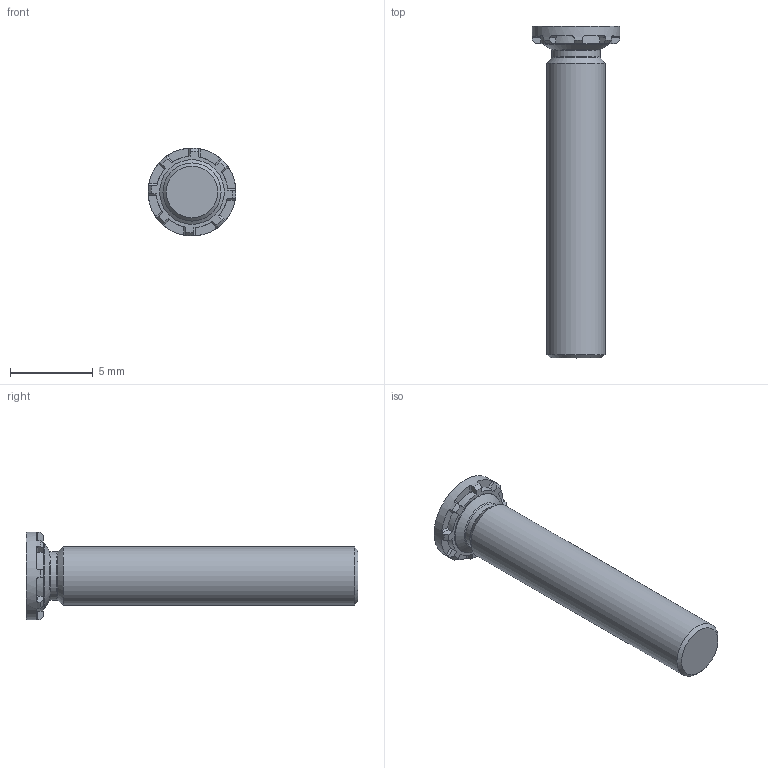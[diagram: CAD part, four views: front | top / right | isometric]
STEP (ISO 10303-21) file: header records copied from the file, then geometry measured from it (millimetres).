
FILE_DESCRIPTION(/* description */ (''),/* implementation_level */ '2;1');
FILE_NAME(/* name */ 'C:\Users\keval.kumar\Desktop\Fastit\Clinch Screw- FH Range\M3.5\Clinch Screw-FH Range_M3.5x20.stp',/* time_stamp */ '2024-03-12T11:54:26+05:00',/* author */ ('keval.kumar'),/* organization */ (''),/* preprocessor_version */ 'ST-DEVELOPER v18.1',/* originating_system */ 'Autodesk Inventor 2022',/* authorisation */ '');
FILE_SCHEMA (('AUTOMOTIVE_DESIGN { 1 0 10303 214 3 1 1 }'));
Length unit declared in the file: millimetre
Products named in the file (1): Clinch Screw-FH Range_M3.5x20
Bounding box: 5.3 x 20 x 5.3 mm (x, y, z)
Volume: 200.8 mm3; surface area: 269.8 mm2
Topology: 1 solids, 1 shells, 68 faces, 193 edges, 128 vertices
Faces by surface type: plane 43, cylinder 12, cone 11, torus 2
Full cylindrical faces by diameter (mm): 2.9 x1, 3.5 x1, 3.9 x1, 5.3 x1
Entity records: 2278 total; most frequent: CARTESIAN_POINT 422, DIRECTION 405, ORIENTED_EDGE 386, EDGE_CURVE 193, AXIS2_PLACEMENT_3D 159, VERTEX_POINT 128, LINE 87, VECTOR 87
